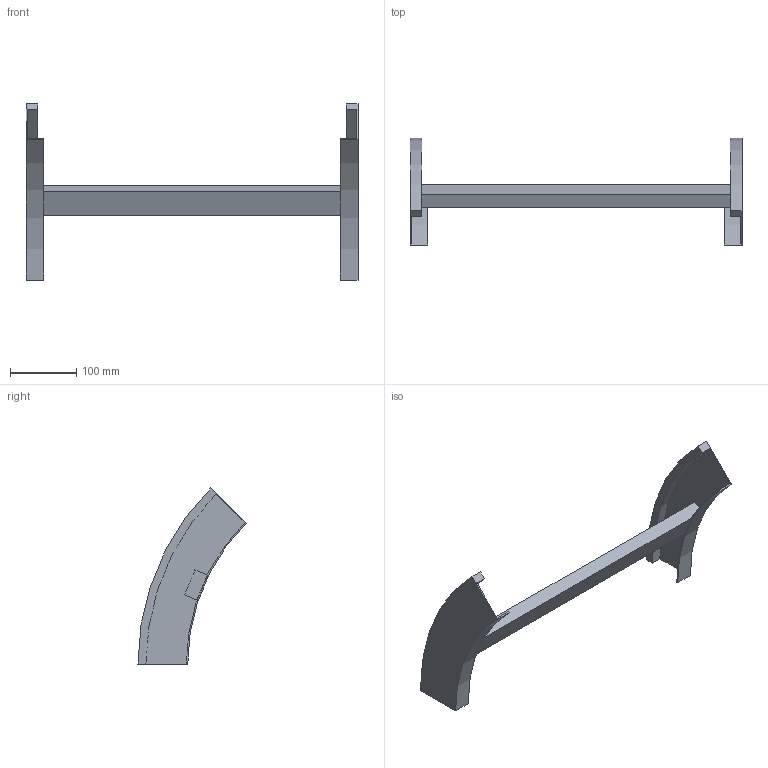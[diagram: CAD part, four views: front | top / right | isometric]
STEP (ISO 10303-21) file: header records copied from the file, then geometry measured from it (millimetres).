
FILE_DESCRIPTION (( 'STEP AP214' ), '1' );
FILE_NAME ('B2_34B3C500.step', '2025-02-21T14:55:34', ( '' ), ( '' ), 'SwSTEP 2.0', 'SolidWorks 2023', '' );
FILE_SCHEMA (( 'AUTOMOTIVE_DESIGN' ));
Length unit declared in the file: millimetre
Products named in the file (3): B2_34B3C500; B2_LONGH.DISCESA_45°_H75_R300; TRAVERSINO_500
Assembly tree (3 placements, depth 2):
  B2_34B3C500
    B2_LONGH.DISCESA_45°_H75_R300  x2
    TRAVERSINO_500
Bounding box: 500 x 162.87 x 265.17 mm (x, y, z)
Volume: 616209.8 mm3; surface area: 187034.6 mm2
Topology: 3 solids, 3 shells, 26 faces, 60 edges, 40 vertices
Faces by surface type: plane 18, cylinder 8
Entity records: 544 total; most frequent: DIRECTION 88, CARTESIAN_POINT 82, ORIENTED_EDGE 72, EDGE_CURVE 36, AXIS2_PLACEMENT_3D 30, VECTOR 28, LINE 28, VERTEX_POINT 24
